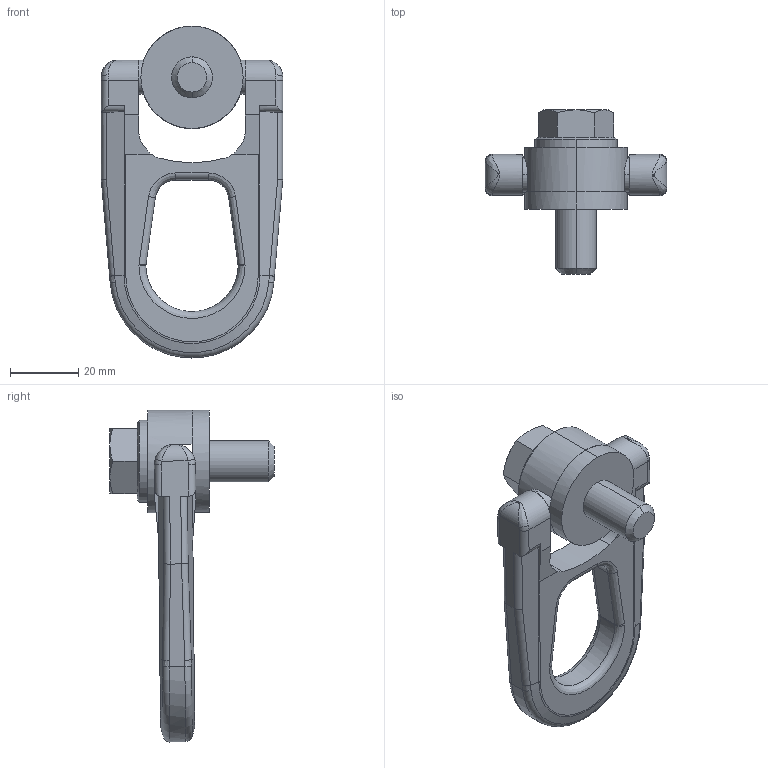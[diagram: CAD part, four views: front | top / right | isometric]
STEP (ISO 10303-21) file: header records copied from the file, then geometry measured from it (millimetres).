
FILE_DESCRIPTION (( 'STEP AP203' ), '1' );
FILE_NAME ('63200.W0013.step', '2013-12-13T15:22:07', ( 'User' ), ( '' ), 'SwSTEP 2.0', 'SolidWorks 2009', '' );
FILE_SCHEMA (( 'CONFIG_CONTROL_DESIGN' ));
Length unit declared in the file: millimetre
Products named in the file (3): Part2; Part1_63200.W0013; 63200.W0013
Assembly tree (2 placements, depth 2):
  63200.W0013
    Part2
    Part1_63200.W0013
Bounding box: 53 x 48 x 97.02 mm (x, y, z)
Volume: 40190.5 mm3; surface area: 14078.8 mm2
Topology: 2 solids, 2 shells, 143 faces, 355 edges, 217 vertices
Faces by surface type: plane 49, cylinder 46, bspline 28, cone 13, torus 7
Entity records: 6710 total; most frequent: CARTESIAN_POINT 3271, ORIENTED_EDGE 710, DIRECTION 601, EDGE_CURVE 355, AXIS2_PLACEMENT_3D 229, VERTEX_POINT 217, EDGE_LOOP 148, ADVANCED_FACE 143
